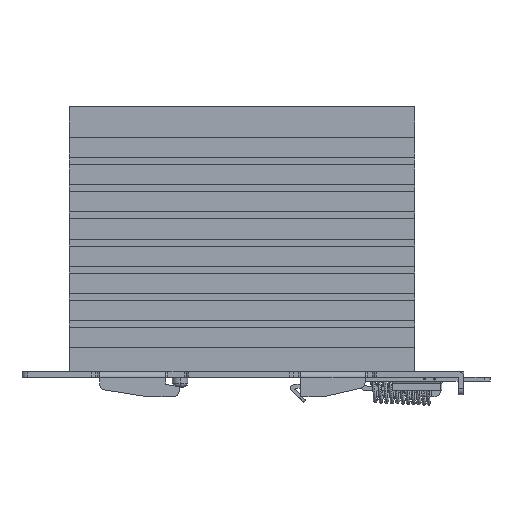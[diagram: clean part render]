
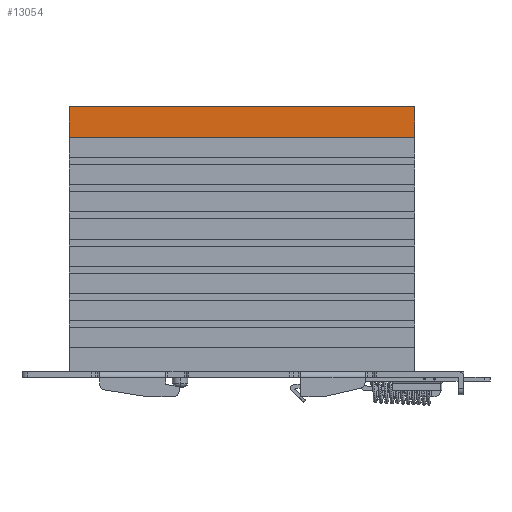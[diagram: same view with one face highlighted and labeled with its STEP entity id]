
A CAD part, left-side view. The second image highlights one B-rep face of the part: STEP entity #13054.
In plain terms, the highlighted planar face has unit normal (-1, 0, 0).
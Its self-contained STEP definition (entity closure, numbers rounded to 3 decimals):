
#818 = VERTEX_POINT ( 'NONE', #24835 ) ;
#904 = ORIENTED_EDGE ( 'NONE', *, *, #31733, .T. ) ;
#1017 = DIRECTION ( 'NONE',  ( 0., 0., 1. ) ) ;
#1654 = VECTOR ( 'NONE', #1017, 1000. ) ;
#1691 = VERTEX_POINT ( 'NONE', #11775 ) ;
#2084 = CARTESIAN_POINT ( 'NONE',  ( 0.25, 19.565, 68.954 ) ) ;
#2646 = DIRECTION ( 'NONE',  ( 0., 0., 1. ) ) ;
#3312 = VECTOR ( 'NONE', #27481, 1000. ) ;
#3780 = ORIENTED_EDGE ( 'NONE', *, *, #10345, .F. ) ;
#4046 = VERTEX_POINT ( 'NONE', #23629 ) ;
#4054 = ORIENTED_EDGE ( 'NONE', *, *, #18240, .T. ) ;
#8179 = LINE ( 'NONE', #18385, #26950 ) ;
#8574 = DIRECTION ( 'NONE',  ( 0., 1., 0. ) ) ;
#10345 = EDGE_CURVE ( 'NONE', #1691, #818, #31017, .T. ) ;
#11085 = PLANE ( 'NONE',  #11854 ) ;
#11775 = CARTESIAN_POINT ( 'NONE',  ( 0.25, 109.565, 68.954 ) ) ;
#11854 = AXIS2_PLACEMENT_3D ( 'NONE', #21270, #21116, #8574 ) ;
#12909 = EDGE_CURVE ( 'NONE', #19149, #1691, #31971, .T. ) ;
#13054 = ADVANCED_FACE ( 'NONE', ( #31082 ), #11085, .F. ) ;
#13494 = VECTOR ( 'NONE', #2646, 1000. ) ;
#14333 = DIRECTION ( 'NONE',  ( 0., 1., 0. ) ) ;
#18240 = EDGE_CURVE ( 'NONE', #4046, #818, #8179, .T. ) ;
#18385 = CARTESIAN_POINT ( 'NONE',  ( 0.25, 19.565, 77. ) ) ;
#19149 = VERTEX_POINT ( 'NONE', #2084 ) ;
#21116 = DIRECTION ( 'NONE',  ( 1., 0., 0. ) ) ;
#21270 = CARTESIAN_POINT ( 'NONE',  ( 0.25, 19.565, 76.941 ) ) ;
#23629 = CARTESIAN_POINT ( 'NONE',  ( 0.25, 19.565, 77. ) ) ;
#24040 = CARTESIAN_POINT ( 'NONE',  ( 0.25, 109.565, 18.943 ) ) ;
#24538 = EDGE_LOOP ( 'NONE', ( #25577, #904, #4054, #3780 ) ) ;
#24835 = CARTESIAN_POINT ( 'NONE',  ( 0.25, 109.565, 77. ) ) ;
#24840 = CARTESIAN_POINT ( 'NONE',  ( 0.25, 19.565, 68.954 ) ) ;
#25577 = ORIENTED_EDGE ( 'NONE', *, *, #12909, .F. ) ;
#26950 = VECTOR ( 'NONE', #14333, 1000. ) ;
#27481 = DIRECTION ( 'NONE',  ( 0., 1., 0. ) ) ;
#28331 = CARTESIAN_POINT ( 'NONE',  ( 0.25, 19.565, 76.941 ) ) ;
#28499 = LINE ( 'NONE', #28331, #13494 ) ;
#31017 = LINE ( 'NONE', #24040, #1654 ) ;
#31082 = FACE_OUTER_BOUND ( 'NONE', #24538, .T. ) ;
#31733 = EDGE_CURVE ( 'NONE', #19149, #4046, #28499, .T. ) ;
#31971 = LINE ( 'NONE', #24840, #3312 ) ;
